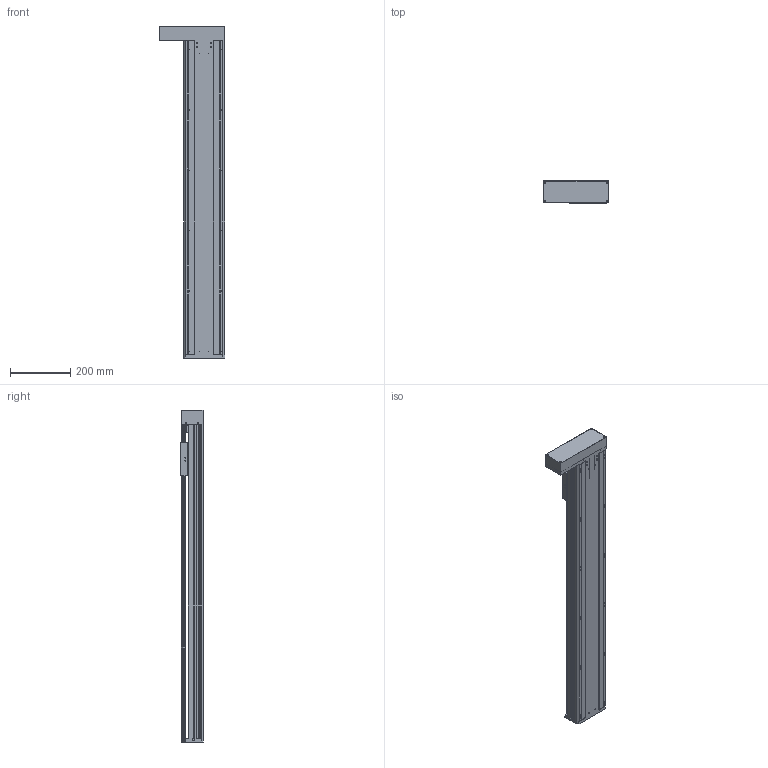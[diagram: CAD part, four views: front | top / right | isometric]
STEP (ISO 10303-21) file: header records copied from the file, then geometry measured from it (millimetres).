
FILE_DESCRIPTION(/* description */ (''),/* implementation_level */ '2;1');
FILE_NAME(/* name */ 'TKA136-FL-850_asm1.stp',/* time_stamp */ '2016-05-07T13:28:15+08:00',/* author */ (''),/* organization */ (''),/* preprocessor_version */ 'ST-DEVELOPER v15',/* originating_system */ 'SIEMENS PLM Software NX 8.5',/* authorisation */ '');
FILE_SCHEMA (('AUTOMOTIVE_DESIGN { 1 0 10303 214 3 1 1 1 }'));
Length unit declared in the file: millimetre
Products named in the file (3): 100-02; 100-01; TKA136-FL-850_asm1
Assembly tree (2 placements, depth 2):
  TKA136-FL-850_asm1
    100-01
    100-02
Bounding box: 216 x 75 x 1100 mm (x, y, z)
Volume: 3321141.9 mm3; surface area: 1316179.2 mm2
Topology: 2 solids, 12 shells, 902 faces, 2566 edges, 1675 vertices
Faces by surface type: cylinder 428, plane 423, cone 51
Full cylindrical faces by diameter (mm): 2.5 x14, 3 x2, 3.3 x13, 4 x4, 4.2 x6, 4.5 x24, 5 x20, 5.5 x26, 6.6 x16, 8 x20, 10 x9, 10.5 x12, 11 x4, 11.6 x1, 12 x9, 15 x3, 16 x5, 17 x1, 24 x5, 26 x1, 28 x1, 46 x1, 50 x1
Entity records: 30432 total; most frequent: CARTESIAN_POINT 8112, DIRECTION 4608, ORIENTED_EDGE 4350, EDGE_CURVE 2175, AXIS2_PLACEMENT_3D 1743, VERTEX_POINT 1552, EDGE_LOOP 1346, LINE 1122
